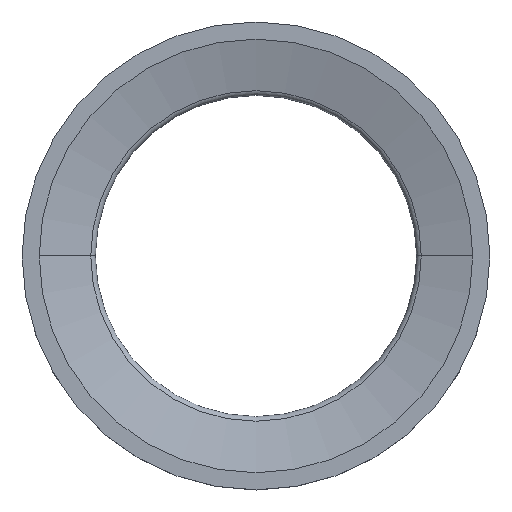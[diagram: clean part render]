
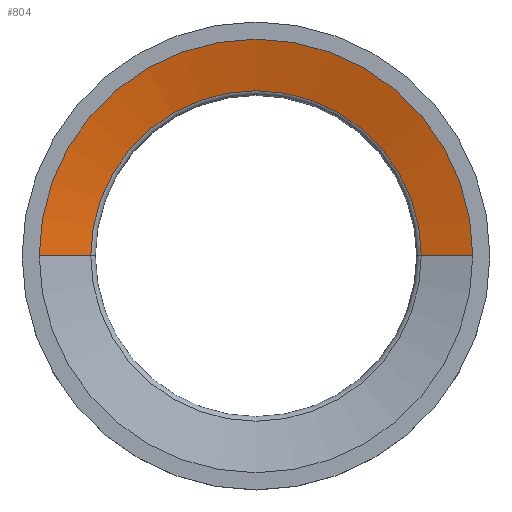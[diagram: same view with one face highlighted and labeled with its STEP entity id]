
A CAD part, top view. The second image highlights one B-rep face of the part: STEP entity #804.
In plain terms, the highlighted conical face has half-angle 75 degrees and reference radius 61.241 mm.
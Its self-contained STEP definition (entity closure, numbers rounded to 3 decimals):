
#112=DIRECTION('',(-0.966,0.,-0.259));
#113=VECTOR('',#112,17.1);
#114=CARTESIAN_POINT('',(69.5,0.,22.));
#115=LINE('',#114,#113);
#116=CARTESIAN_POINT('',(0.,0.,17.574));
#117=DIRECTION('',(0.,0.,1.));
#118=DIRECTION('',(1.,0.,0.));
#119=AXIS2_PLACEMENT_3D('',#116,#117,#118);
#121=DIRECTION('',(0.966,0.,-0.259));
#122=VECTOR('',#121,17.1);
#123=CARTESIAN_POINT('',(-69.5,0.,
22.));
#124=LINE('',#123,#122);
#140=CARTESIAN_POINT('',(0.,0.,22.));
#141=DIRECTION('',(0.,0.,-1.));
#142=DIRECTION('',(-1.,0.,0.));
#143=AXIS2_PLACEMENT_3D('',#140,#141,#142);
#519=CARTESIAN_POINT('',(69.5,0.,
22.));
#520=CARTESIAN_POINT('',(-69.5,0.,22.));
#521=VERTEX_POINT('',#519);
#522=VERTEX_POINT('',#520);
#527=CARTESIAN_POINT('',(-52.982,0.,
17.574));
#528=CARTESIAN_POINT('',(52.982,0.,17.574));
#529=VERTEX_POINT('',#527);
#530=VERTEX_POINT('',#528);
#792=CARTESIAN_POINT('',(0.,0.,19.787));
#793=DIRECTION('',(0.,0.,1.));
#794=DIRECTION('',(0.,-1.,0.));
#795=AXIS2_PLACEMENT_3D('',#792,#793,#794);
#796=CONICAL_SURFACE('',#795,61.241,75.);
#797=ORIENTED_EDGE('',*,*,#757,.T.);
#798=ORIENTED_EDGE('',*,*,#787,.F.);
#800=ORIENTED_EDGE('',*,*,#799,.T.);
#801=ORIENTED_EDGE('',*,*,#783,.T.);
#802=EDGE_LOOP('',(#797,#798,#800,#801));
#803=FACE_OUTER_BOUND('',#802,.F.);
#120=CIRCLE('',#119,52.982);
#144=CIRCLE('',#143,69.5);
#757=EDGE_CURVE('',#530,#529,#120,.T.);
#783=EDGE_CURVE('',#521,#530,#115,.T.);
#787=EDGE_CURVE('',#522,#529,#124,.T.);
#799=EDGE_CURVE('',#522,#521,#144,.T.);
#804=ADVANCED_FACE('',(#803),#796,.F.);
